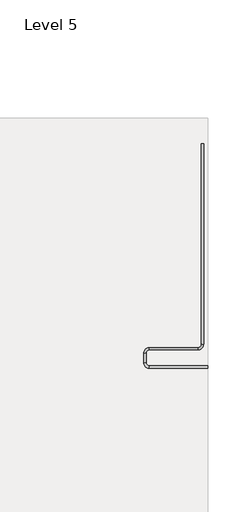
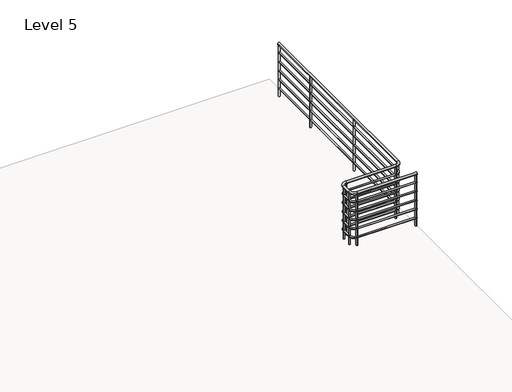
# One storey, part 2 of 3: 1 railing.
"""IFC4 building model written with IfcOpenShell, lengths in millimetres."""

from ifc_helpers import new_model, si_unit, point, frame, frame_2d, origin, place, context, project, spatial, circle_curve, ellipse_curve, trimmed, segment, composite_curve, outline, extrude, element, save
from ifc_brep_helpers import plane_surface, cylinder_surface, revolved_surface, advanced_brep

model = new_model("IFC4")

# Units and contexts
model_context = context("Model", 3, world=origin())
ifc_project = project(units=[si_unit("LENGTHUNIT", "METRE", prefix="MILLI")], contexts=[model_context])

# Site, building, storey
site = spatial("IfcSite", under=ifc_project)
building = spatial("IfcBuilding", under=site)
storey = spatial("IfcBuildingStorey", under=building, Name="Level 5", Elevation=14630.4)

# Railing
placement = place(None, origin())
element("IfcRailing", 1, ObjectType="Handrail - Pipe", at=placement, inside=storey, context=model_context, shape_type="SolidModel", body=[
    advanced_brep(
    [(18023.4049721, 512.0273319, 15525.75), (18023.4049721, 473.9273319, 15525.75), (17058.2049721, 512.0273319, 15525.75), (17058.2049721, 473.9273319, 15525.75), (16962.9549721, 569.1773319, 15525.75), (17001.0549721, 569.1773319, 15525.75), (17001.0549721, 721.5773319, 15525.75), (16962.9549721, 721.5773319, 15525.75), (17058.2049721, 816.8273319, 15525.75), (17058.2049721, 778.7273319, 15525.75), (17861.7339721, 778.7273319, 15525.75), (17861.7339721, 816.8273319, 15525.75), (17956.9839721, 4202.9648319, 15525.75), (17918.8839721, 4202.9648319, 15525.75), (17918.8839721, 873.9773319, 15525.75), (17956.9839721, 873.9773319, 15525.75)],
    [
        (0, 1, circle_curve(frame((18023.4049721, 492.9773319, 15525.75), z_axis=(1.0, 0.0, 0.0), x_axis=(0.0, -1.0, 0.0)), 19.05)),
        (1, 0, circle_curve(frame((18023.4049721, 492.9773319, 15525.75), z_axis=(1.0, 0.0, 0.0), x_axis=(0.0, -1.0, 0.0)), 19.05)),
        (0, 2),
        (2, 3, circle_curve(frame((17058.2049721, 492.9773319, 15525.75), z_axis=(1.0, 0.0, 0.0), x_axis=(0.0, -1.0, 0.0)), 19.05)),
        (3, 1),
        (3, 2, circle_curve(frame((17058.2049721, 492.9773319, 15525.75), z_axis=(1.0, 0.0, 0.0), x_axis=(0.0, -1.0, 0.0)), 19.05)),
        (4, 5, circle_curve(frame((16982.0049721, 569.1773319, 15525.75), z_axis=(0.0, 1.0, 0.0), x_axis=(-1.0, 0.0, 0.0)), 19.05)),
        (5, 6),
        (6, 7, circle_curve(frame((16982.0049721, 721.5773319, 15525.75), z_axis=(0.0, -1.0, 0.0), x_axis=(-1.0, 0.0, 0.0)), 19.05)),
        (7, 4),
        (5, 4, circle_curve(frame((16982.0049721, 569.1773319, 15525.75), z_axis=(0.0, 1.0, 0.0), x_axis=(-1.0, 0.0, 0.0)), 19.05)),
        (7, 6, circle_curve(frame((16982.0049721, 721.5773319, 15525.75), z_axis=(0.0, -1.0, 0.0), x_axis=(-1.0, 0.0, 0.0)), 19.05)),
        (8, 9, circle_curve(frame((17058.2049721, 797.7773319, 15525.75), z_axis=(1.0, 0.0, 0.0), x_axis=(0.0, 1.0, 0.0)), 19.05)),
        (9, 10),
        (10, 11, circle_curve(frame((17861.7339721, 797.7773319, 15525.75), z_axis=(-1.0, 0.0, 0.0), x_axis=(0.0, 1.0, 0.0)), 19.05)),
        (11, 8),
        (9, 8, circle_curve(frame((17058.2049721, 797.7773319, 15525.75), z_axis=(1.0, 0.0, 0.0), x_axis=(0.0, 1.0, 0.0)), 19.05)),
        (11, 10, circle_curve(frame((17861.7339721, 797.7773319, 15525.75), z_axis=(-1.0, 0.0, 0.0), x_axis=(0.0, 1.0, 0.0)), 19.05)),
        (12, 13, circle_curve(frame((17937.9339721, 4202.9648319, 15525.75), z_axis=(0.0, 1.0, 0.0), x_axis=(-1.0, 0.0, 0.0)), 19.05)),
        (13, 12, circle_curve(frame((17937.9339721, 4202.9648319, 15525.75), z_axis=(0.0, 1.0, 0.0), x_axis=(-1.0, 0.0, 0.0)), 19.05)),
        (14, 15, circle_curve(frame((17937.9339721, 873.9773319, 15525.75), z_axis=(0.0, 1.0, 0.0), x_axis=(-1.0, 0.0, 0.0)), 19.05)),
        (15, 12),
        (13, 14),
        (15, 14, circle_curve(frame((17937.9339721, 873.9773319, 15525.75), z_axis=(0.0, 1.0, 0.0), x_axis=(-1.0, 0.0, 0.0)), 19.05)),
        (4, 3, circle_curve(frame((17058.2049721, 569.1773319, 15525.75), z_axis=(0.0, 0.0, 1.0), x_axis=(0.0, -1.0, 0.0)), 95.25)),
        (2, 5, circle_curve(frame((17058.2049721, 569.1773319, 15525.75), z_axis=(0.0, 0.0, -1.0), x_axis=(0.0, -1.0, 0.0)), 57.15)),
        (8, 7, circle_curve(frame((17058.2049721, 721.5773319, 15525.75), z_axis=(0.0, 0.0, 1.0), x_axis=(-1.0, 0.0, 0.0)), 95.25)),
        (6, 9, circle_curve(frame((17058.2049721, 721.5773319, 15525.75), z_axis=(0.0, 0.0, -1.0), x_axis=(-1.0, 0.0, 0.0)), 57.15)),
        (14, 11, circle_curve(frame((17861.7339721, 873.9773319, 15525.75), z_axis=(0.0, 0.0, -1.0), x_axis=(0.0, -1.0, 0.0)), 57.15)),
        (10, 15, circle_curve(frame((17861.7339721, 873.9773319, 15525.75), z_axis=(0.0, 0.0, 1.0), x_axis=(0.0, -1.0, 0.0)), 95.25)),
    ],
    [
        plane_surface(frame((18023.4049721, 492.9773319, 15544.8), z_axis=(1.0, 0.0, 0.0), x_axis=(0.0, -1.0, 0.0))),
        cylinder_surface(frame((18023.4049721, 492.9773319, 15525.75), z_axis=(1.0, 0.0, 0.0), x_axis=(0.0, -1.0, 0.0)), 19.05),
        cylinder_surface(frame((16982.0049721, 569.1773319, 15525.75), z_axis=(0.0, -1.0, 0.0), x_axis=(-1.0, 0.0, 0.0)), 19.05),
        cylinder_surface(frame((17058.2049721, 797.7773319, 15525.75), z_axis=(-1.0, 0.0, 0.0), x_axis=(0.0, 1.0, 0.0)), 19.05),
        plane_surface(frame((17937.9339721, 4202.9648319, 15544.8), z_axis=(0.0, 1.0, 0.0), x_axis=(0.0, 0.0, 1.0))),
        cylinder_surface(frame((17937.9339721, 873.9773319, 15525.75), z_axis=(0.0, -1.0, 0.0), x_axis=(-1.0, 0.0, 0.0)), 19.05),
        revolved_surface(trimmed(ellipse_curve(frame((17058.2049721, 492.9773319, 15525.75), z_axis=(1.0, 0.0, 0.0), x_axis=(0.0, -1.0, 0.0)), 19.05, 19.05), [point((17058.2049721, 512.0273319, 15525.75))], [point((17058.2049721, 473.9273319, 15525.75))], True, "CARTESIAN"), (17058.2049721, 569.1773319, 15544.8), (0.0, 0.0, -1.0)),
        revolved_surface(trimmed(ellipse_curve(frame((17058.2049721, 492.9773319, 15525.75), z_axis=(1.0, 0.0, 0.0), x_axis=(0.0, -1.0, 0.0)), 19.05, 19.05), [point((17058.2049721, 473.9273319, 15525.75))], [point((17058.2049721, 512.0273319, 15525.75))], True, "CARTESIAN"), (17058.2049721, 569.1773319, 15544.8), (0.0, 0.0, -1.0)),
        revolved_surface(trimmed(ellipse_curve(frame((16982.0049721, 721.5773319, 15525.75), z_axis=(0.0, -1.0, 0.0), x_axis=(-1.0, 0.0, 0.0)), 19.05, 19.05), [point((17001.0549721, 721.5773319, 15525.75))], [point((16962.9549721, 721.5773319, 15525.75))], True, "CARTESIAN"), (17058.2049721, 721.5773319, 15544.8), (0.0, 0.0, -1.0)),
        revolved_surface(trimmed(ellipse_curve(frame((16982.0049721, 721.5773319, 15525.75), z_axis=(0.0, -1.0, 0.0), x_axis=(-1.0, 0.0, 0.0)), 19.05, 19.05), [point((16962.9549721, 721.5773319, 15525.75))], [point((17001.0549721, 721.5773319, 15525.75))], True, "CARTESIAN"), (17058.2049721, 721.5773319, 15544.8), (0.0, 0.0, -1.0)),
        revolved_surface(trimmed(ellipse_curve(frame((17861.7339721, 797.7773319, 15525.75), z_axis=(-1.0, 0.0, 0.0), x_axis=(0.0, 1.0, 0.0)), 19.05, 19.05), [point((17861.7339721, 778.7273319, 15525.75))], [point((17861.7339721, 816.8273319, 15525.75))], True, "CARTESIAN"), (17861.7339721, 873.9773319, 15544.8), (0.0, 0.0, 1.0)),
        revolved_surface(trimmed(ellipse_curve(frame((17861.7339721, 797.7773319, 15525.75), z_axis=(-1.0, 0.0, 0.0), x_axis=(0.0, 1.0, 0.0)), 19.05, 19.05), [point((17861.7339721, 816.8273319, 15525.75))], [point((17861.7339721, 778.7273319, 15525.75))], True, "CARTESIAN"), (17861.7339721, 873.9773319, 15544.8), (0.0, 0.0, 1.0)),
    ],
    [
        (0, [[1, 2]]),
        (1, [[-1, 3, 4, 5]]),
        (1, [[-2, -5, 6, -3]]),
        (2, [[7, 8, 9, 10]]),
        (2, [[11, -10, 12, -8]]),
        (3, [[13, 14, 15, 16]]),
        (3, [[17, -16, 18, -14]]),
        (4, [[19, 20]]),
        (5, [[21, 22, -20, 23]]),
        (5, [[24, -23, -19, -22]]),
        (6, [[25, -4, 26, -7]]),
        (7, [[-26, -6, -25, -11]]),
        (8, [[27, -9, 28, -13]]),
        (9, [[-28, -12, -27, -17]]),
        (10, [[29, -15, 30, -21]]),
        (11, [[-30, -18, -29, -24]]),
    ],
),
    advanced_brep(
    [(18023.4049721, 505.6773319, 15379.7), (18023.4049721, 480.2773319, 15379.7), (17058.2049721, 480.2773319, 15379.7), (17058.2049721, 505.6773319, 15379.7), (16994.7049721, 569.1773319, 15379.7), (16969.3049721, 569.1773319, 15379.7), (16969.3049721, 721.5773319, 15379.7), (16994.7049721, 721.5773319, 15379.7), (17058.2049721, 785.0773319, 15379.7), (17058.2049721, 810.4773319, 15379.7), (17861.7339721, 810.4773319, 15379.7), (17861.7339721, 785.0773319, 15379.7), (17950.6339721, 4202.9648319, 15379.7), (17925.2339721, 4202.9648319, 15379.7), (17950.6339721, 873.9773319, 15379.7), (17925.2339721, 873.9773319, 15379.7)],
    [
        (0, 1, circle_curve(frame((18023.4049721, 492.9773319, 15379.7), z_axis=(1.0, 0.0, 0.0), x_axis=(0.0, -1.0, 0.0)), 12.7)),
        (1, 0, circle_curve(frame((18023.4049721, 492.9773319, 15379.7), z_axis=(1.0, 0.0, 0.0), x_axis=(0.0, -1.0, 0.0)), 12.7)),
        (1, 2),
        (2, 3, circle_curve(frame((17058.2049721, 492.9773319, 15379.7), z_axis=(1.0, 0.0, 0.0), x_axis=(0.0, -1.0, 0.0)), 12.7)),
        (3, 0),
        (3, 2, circle_curve(frame((17058.2049721, 492.9773319, 15379.7), z_axis=(1.0, 0.0, 0.0), x_axis=(0.0, -1.0, 0.0)), 12.7)),
        (4, 5, circle_curve(frame((16982.0049721, 569.1773319, 15379.7), z_axis=(0.0, 1.0, 0.0), x_axis=(-1.0, 0.0, 0.0)), 12.7)),
        (5, 6),
        (6, 7, circle_curve(frame((16982.0049721, 721.5773319, 15379.7), z_axis=(0.0, -1.0, 0.0), x_axis=(-1.0, 0.0, 0.0)), 12.7)),
        (7, 4),
        (5, 4, circle_curve(frame((16982.0049721, 569.1773319, 15379.7), z_axis=(0.0, 1.0, 0.0), x_axis=(-1.0, 0.0, 0.0)), 12.7)),
        (7, 6, circle_curve(frame((16982.0049721, 721.5773319, 15379.7), z_axis=(0.0, -1.0, 0.0), x_axis=(-1.0, 0.0, 0.0)), 12.7)),
        (8, 9, circle_curve(frame((17058.2049721, 797.7773319, 15379.7), z_axis=(1.0, 0.0, 0.0), x_axis=(0.0, 1.0, 0.0)), 12.7)),
        (9, 10),
        (10, 11, circle_curve(frame((17861.7339721, 797.7773319, 15379.7), z_axis=(-1.0, 0.0, 0.0), x_axis=(0.0, 1.0, 0.0)), 12.7)),
        (11, 8),
        (9, 8, circle_curve(frame((17058.2049721, 797.7773319, 15379.7), z_axis=(1.0, 0.0, 0.0), x_axis=(0.0, 1.0, 0.0)), 12.7)),
        (11, 10, circle_curve(frame((17861.7339721, 797.7773319, 15379.7), z_axis=(-1.0, 0.0, 0.0), x_axis=(0.0, 1.0, 0.0)), 12.7)),
        (12, 13, circle_curve(frame((17937.9339721, 4202.9648319, 15379.7), z_axis=(0.0, 1.0, 0.0), x_axis=(-1.0, 0.0, 0.0)), 12.7)),
        (13, 12, circle_curve(frame((17937.9339721, 4202.9648319, 15379.7), z_axis=(0.0, 1.0, 0.0), x_axis=(-1.0, 0.0, 0.0)), 12.7)),
        (14, 15, circle_curve(frame((17937.9339721, 873.9773319, 15379.7), z_axis=(0.0, 1.0, 0.0), x_axis=(-1.0, 0.0, 0.0)), 12.7)),
        (15, 13),
        (12, 14),
        (15, 14, circle_curve(frame((17937.9339721, 873.9773319, 15379.7), z_axis=(0.0, 1.0, 0.0), x_axis=(-1.0, 0.0, 0.0)), 12.7)),
        (4, 3, circle_curve(frame((17058.2049721, 569.1773319, 15379.7), z_axis=(0.0, 0.0, 1.0), x_axis=(0.0, -1.0, 0.0)), 63.5)),
        (2, 5, circle_curve(frame((17058.2049721, 569.1773319, 15379.7), z_axis=(0.0, 0.0, -1.0), x_axis=(0.0, -1.0, 0.0)), 88.9)),
        (8, 7, circle_curve(frame((17058.2049721, 721.5773319, 15379.7), z_axis=(0.0, 0.0, 1.0), x_axis=(-1.0, 0.0, 0.0)), 63.5)),
        (6, 9, circle_curve(frame((17058.2049721, 721.5773319, 15379.7), z_axis=(0.0, 0.0, -1.0), x_axis=(-1.0, 0.0, 0.0)), 88.9)),
        (14, 11, circle_curve(frame((17861.7339721, 873.9773319, 15379.7), z_axis=(0.0, 0.0, -1.0), x_axis=(0.0, -1.0, 0.0)), 88.9)),
        (10, 15, circle_curve(frame((17861.7339721, 873.9773319, 15379.7), z_axis=(0.0, 0.0, 1.0), x_axis=(0.0, -1.0, 0.0)), 63.5)),
    ],
    [
        plane_surface(frame((18023.4049721, 492.9773319, 15392.4), z_axis=(1.0, 0.0, 0.0), x_axis=(0.0, -1.0, 0.0))),
        cylinder_surface(frame((18023.4049721, 492.9773319, 15379.7), z_axis=(1.0, 0.0, 0.0), x_axis=(0.0, -1.0, 0.0)), 12.7),
        cylinder_surface(frame((16982.0049721, 569.1773319, 15379.7), z_axis=(0.0, -1.0, 0.0), x_axis=(-1.0, 0.0, 0.0)), 12.7),
        cylinder_surface(frame((17058.2049721, 797.7773319, 15379.7), z_axis=(-1.0, 0.0, 0.0), x_axis=(0.0, 1.0, 0.0)), 12.7),
        plane_surface(frame((17937.9339721, 4202.9648319, 15392.4), z_axis=(0.0, 1.0, 0.0), x_axis=(0.0, 0.0, 1.0))),
        cylinder_surface(frame((17937.9339721, 873.9773319, 15379.7), z_axis=(0.0, -1.0, 0.0), x_axis=(-1.0, 0.0, 0.0)), 12.7),
        revolved_surface(trimmed(ellipse_curve(frame((17058.2049721, 492.9773319, 15379.7), z_axis=(1.0, 0.0, 0.0), x_axis=(0.0, -1.0, 0.0)), 12.7, 12.7), [point((17058.2049721, 480.2773319, 15379.7))], [point((17058.2049721, 505.6773319, 15379.7))], True, "CARTESIAN"), (17058.2049721, 569.1773319, 15392.4), (0.0, 0.0, -1.0)),
        revolved_surface(trimmed(ellipse_curve(frame((17058.2049721, 492.9773319, 15379.7), z_axis=(1.0, 0.0, 0.0), x_axis=(0.0, -1.0, 0.0)), 12.7, 12.7), [point((17058.2049721, 505.6773319, 15379.7))], [point((17058.2049721, 480.2773319, 15379.7))], True, "CARTESIAN"), (17058.2049721, 569.1773319, 15392.4), (0.0, 0.0, -1.0)),
        revolved_surface(trimmed(ellipse_curve(frame((16982.0049721, 721.5773319, 15379.7), z_axis=(0.0, -1.0, 0.0), x_axis=(-1.0, 0.0, 0.0)), 12.7, 12.7), [point((16969.3049721, 721.5773319, 15379.7))], [point((16994.7049721, 721.5773319, 15379.7))], True, "CARTESIAN"), (17058.2049721, 721.5773319, 15392.4), (0.0, 0.0, -1.0)),
        revolved_surface(trimmed(ellipse_curve(frame((16982.0049721, 721.5773319, 15379.7), z_axis=(0.0, -1.0, 0.0), x_axis=(-1.0, 0.0, 0.0)), 12.7, 12.7), [point((16994.7049721, 721.5773319, 15379.7))], [point((16969.3049721, 721.5773319, 15379.7))], True, "CARTESIAN"), (17058.2049721, 721.5773319, 15392.4), (0.0, 0.0, -1.0)),
        revolved_surface(trimmed(ellipse_curve(frame((17861.7339721, 797.7773319, 15379.7), z_axis=(-1.0, 0.0, 0.0), x_axis=(0.0, 1.0, 0.0)), 12.7, 12.7), [point((17861.7339721, 810.4773319, 15379.7))], [point((17861.7339721, 785.0773319, 15379.7))], True, "CARTESIAN"), (17861.7339721, 873.9773319, 15392.4), (0.0, 0.0, 1.0)),
        revolved_surface(trimmed(ellipse_curve(frame((17861.7339721, 797.7773319, 15379.7), z_axis=(-1.0, 0.0, 0.0), x_axis=(0.0, 1.0, 0.0)), 12.7, 12.7), [point((17861.7339721, 785.0773319, 15379.7))], [point((17861.7339721, 810.4773319, 15379.7))], True, "CARTESIAN"), (17861.7339721, 873.9773319, 15392.4), (0.0, 0.0, 1.0)),
    ],
    [
        (0, [[1, 2]]),
        (1, [[-2, 3, 4, 5]]),
        (1, [[-1, -5, 6, -3]]),
        (2, [[7, 8, 9, 10]]),
        (2, [[11, -10, 12, -8]]),
        (3, [[13, 14, 15, 16]]),
        (3, [[17, -16, 18, -14]]),
        (4, [[19, 20]]),
        (5, [[21, 22, -19, 23]]),
        (5, [[24, -23, -20, -22]]),
        (6, [[25, -4, 26, -7]]),
        (7, [[-26, -6, -25, -11]]),
        (8, [[27, -9, 28, -13]]),
        (9, [[-28, -12, -27, -17]]),
        (10, [[29, -15, 30, -21]]),
        (11, [[-30, -18, -29, -24]]),
    ],
),
    advanced_brep(
    [(18023.4049721, 505.6773319, 15227.3), (18023.4049721, 480.2773319, 15227.3), (17058.2049721, 480.2773319, 15227.3), (17058.2049721, 505.6773319, 15227.3), (16994.7049721, 569.1773319, 15227.3), (16969.3049721, 569.1773319, 15227.3), (16969.3049721, 721.5773319, 15227.3), (16994.7049721, 721.5773319, 15227.3), (17058.2049721, 785.0773319, 15227.3), (17058.2049721, 810.4773319, 15227.3), (17861.7339721, 810.4773319, 15227.3), (17861.7339721, 785.0773319, 15227.3), (17950.6339721, 4202.9648319, 15227.3), (17925.2339721, 4202.9648319, 15227.3), (17950.6339721, 873.9773319, 15227.3), (17925.2339721, 873.9773319, 15227.3)],
    [
        (0, 1, circle_curve(frame((18023.4049721, 492.9773319, 15227.3), z_axis=(1.0, 0.0, 0.0), x_axis=(0.0, -1.0, 0.0)), 12.7)),
        (1, 0, circle_curve(frame((18023.4049721, 492.9773319, 15227.3), z_axis=(1.0, 0.0, 0.0), x_axis=(0.0, -1.0, 0.0)), 12.7)),
        (1, 2),
        (2, 3, circle_curve(frame((17058.2049721, 492.9773319, 15227.3), z_axis=(1.0, 0.0, 0.0), x_axis=(0.0, -1.0, 0.0)), 12.7)),
        (3, 0),
        (3, 2, circle_curve(frame((17058.2049721, 492.9773319, 15227.3), z_axis=(1.0, 0.0, 0.0), x_axis=(0.0, -1.0, 0.0)), 12.7)),
        (4, 5, circle_curve(frame((16982.0049721, 569.1773319, 15227.3), z_axis=(0.0, 1.0, 0.0), x_axis=(-1.0, 0.0, 0.0)), 12.7)),
        (5, 6),
        (6, 7, circle_curve(frame((16982.0049721, 721.5773319, 15227.3), z_axis=(0.0, -1.0, 0.0), x_axis=(-1.0, 0.0, 0.0)), 12.7)),
        (7, 4),
        (5, 4, circle_curve(frame((16982.0049721, 569.1773319, 15227.3), z_axis=(0.0, 1.0, 0.0), x_axis=(-1.0, 0.0, 0.0)), 12.7)),
        (7, 6, circle_curve(frame((16982.0049721, 721.5773319, 15227.3), z_axis=(0.0, -1.0, 0.0), x_axis=(-1.0, 0.0, 0.0)), 12.7)),
        (8, 9, circle_curve(frame((17058.2049721, 797.7773319, 15227.3), z_axis=(1.0, 0.0, 0.0), x_axis=(0.0, 1.0, 0.0)), 12.7)),
        (9, 10),
        (10, 11, circle_curve(frame((17861.7339721, 797.7773319, 15227.3), z_axis=(-1.0, 0.0, 0.0), x_axis=(0.0, 1.0, 0.0)), 12.7)),
        (11, 8),
        (9, 8, circle_curve(frame((17058.2049721, 797.7773319, 15227.3), z_axis=(1.0, 0.0, 0.0), x_axis=(0.0, 1.0, 0.0)), 12.7)),
        (11, 10, circle_curve(frame((17861.7339721, 797.7773319, 15227.3), z_axis=(-1.0, 0.0, 0.0), x_axis=(0.0, 1.0, 0.0)), 12.7)),
        (12, 13, circle_curve(frame((17937.9339721, 4202.9648319, 15227.3), z_axis=(0.0, 1.0, 0.0), x_axis=(-1.0, 0.0, 0.0)), 12.7)),
        (13, 12, circle_curve(frame((17937.9339721, 4202.9648319, 15227.3), z_axis=(0.0, 1.0, 0.0), x_axis=(-1.0, 0.0, 0.0)), 12.7)),
        (14, 15, circle_curve(frame((17937.9339721, 873.9773319, 15227.3), z_axis=(0.0, 1.0, 0.0), x_axis=(-1.0, 0.0, 0.0)), 12.7)),
        (15, 13),
        (12, 14),
        (15, 14, circle_curve(frame((17937.9339721, 873.9773319, 15227.3), z_axis=(0.0, 1.0, 0.0), x_axis=(-1.0, 0.0, 0.0)), 12.7)),
        (4, 3, circle_curve(frame((17058.2049721, 569.1773319, 15227.3), z_axis=(0.0, 0.0, 1.0), x_axis=(0.0, -1.0, 0.0)), 63.5)),
        (2, 5, circle_curve(frame((17058.2049721, 569.1773319, 15227.3), z_axis=(0.0, 0.0, -1.0), x_axis=(0.0, -1.0, 0.0)), 88.9)),
        (8, 7, circle_curve(frame((17058.2049721, 721.5773319, 15227.3), z_axis=(0.0, 0.0, 1.0), x_axis=(-1.0, 0.0, 0.0)), 63.5)),
        (6, 9, circle_curve(frame((17058.2049721, 721.5773319, 15227.3), z_axis=(0.0, 0.0, -1.0), x_axis=(-1.0, 0.0, 0.0)), 88.9)),
        (14, 11, circle_curve(frame((17861.7339721, 873.9773319, 15227.3), z_axis=(0.0, 0.0, -1.0), x_axis=(0.0, -1.0, 0.0)), 88.9)),
        (10, 15, circle_curve(frame((17861.7339721, 873.9773319, 15227.3), z_axis=(0.0, 0.0, 1.0), x_axis=(0.0, -1.0, 0.0)), 63.5)),
    ],
    [
        plane_surface(frame((18023.4049721, 492.9773319, 15240.0), z_axis=(1.0, 0.0, 0.0), x_axis=(0.0, -1.0, 0.0))),
        cylinder_surface(frame((18023.4049721, 492.9773319, 15227.3), z_axis=(1.0, 0.0, 0.0), x_axis=(0.0, -1.0, 0.0)), 12.7),
        cylinder_surface(frame((16982.0049721, 569.1773319, 15227.3), z_axis=(0.0, -1.0, 0.0), x_axis=(-1.0, 0.0, 0.0)), 12.7),
        cylinder_surface(frame((17058.2049721, 797.7773319, 15227.3), z_axis=(-1.0, 0.0, 0.0), x_axis=(0.0, 1.0, 0.0)), 12.7),
        plane_surface(frame((17937.9339721, 4202.9648319, 15240.0), z_axis=(0.0, 1.0, 0.0), x_axis=(0.0, 0.0, 1.0))),
        cylinder_surface(frame((17937.9339721, 873.9773319, 15227.3), z_axis=(0.0, -1.0, 0.0), x_axis=(-1.0, 0.0, 0.0)), 12.7),
        revolved_surface(trimmed(ellipse_curve(frame((17058.2049721, 492.9773319, 15227.3), z_axis=(1.0, 0.0, 0.0), x_axis=(0.0, -1.0, 0.0)), 12.7, 12.7), [point((17058.2049721, 480.2773319, 15227.3))], [point((17058.2049721, 505.6773319, 15227.3))], True, "CARTESIAN"), (17058.2049721, 569.1773319, 15240.0), (0.0, 0.0, -1.0)),
        revolved_surface(trimmed(ellipse_curve(frame((17058.2049721, 492.9773319, 15227.3), z_axis=(1.0, 0.0, 0.0), x_axis=(0.0, -1.0, 0.0)), 12.7, 12.7), [point((17058.2049721, 505.6773319, 15227.3))], [point((17058.2049721, 480.2773319, 15227.3))], True, "CARTESIAN"), (17058.2049721, 569.1773319, 15240.0), (0.0, 0.0, -1.0)),
        revolved_surface(trimmed(ellipse_curve(frame((16982.0049721, 721.5773319, 15227.3), z_axis=(0.0, -1.0, 0.0), x_axis=(-1.0, 0.0, 0.0)), 12.7, 12.7), [point((16969.3049721, 721.5773319, 15227.3))], [point((16994.7049721, 721.5773319, 15227.3))], True, "CARTESIAN"), (17058.2049721, 721.5773319, 15240.0), (0.0, 0.0, -1.0)),
        revolved_surface(trimmed(ellipse_curve(frame((16982.0049721, 721.5773319, 15227.3), z_axis=(0.0, -1.0, 0.0), x_axis=(-1.0, 0.0, 0.0)), 12.7, 12.7), [point((16994.7049721, 721.5773319, 15227.3))], [point((16969.3049721, 721.5773319, 15227.3))], True, "CARTESIAN"), (17058.2049721, 721.5773319, 15240.0), (0.0, 0.0, -1.0)),
        revolved_surface(trimmed(ellipse_curve(frame((17861.7339721, 797.7773319, 15227.3), z_axis=(-1.0, 0.0, 0.0), x_axis=(0.0, 1.0, 0.0)), 12.7, 12.7), [point((17861.7339721, 810.4773319, 15227.3))], [point((17861.7339721, 785.0773319, 15227.3))], True, "CARTESIAN"), (17861.7339721, 873.9773319, 15240.0), (0.0, 0.0, 1.0)),
        revolved_surface(trimmed(ellipse_curve(frame((17861.7339721, 797.7773319, 15227.3), z_axis=(-1.0, 0.0, 0.0), x_axis=(0.0, 1.0, 0.0)), 12.7, 12.7), [point((17861.7339721, 785.0773319, 15227.3))], [point((17861.7339721, 810.4773319, 15227.3))], True, "CARTESIAN"), (17861.7339721, 873.9773319, 15240.0), (0.0, 0.0, 1.0)),
    ],
    [
        (0, [[1, 2]]),
        (1, [[-2, 3, 4, 5]]),
        (1, [[-1, -5, 6, -3]]),
        (2, [[7, 8, 9, 10]]),
        (2, [[11, -10, 12, -8]]),
        (3, [[13, 14, 15, 16]]),
        (3, [[17, -16, 18, -14]]),
        (4, [[19, 20]]),
        (5, [[21, 22, -19, 23]]),
        (5, [[24, -23, -20, -22]]),
        (6, [[25, -4, 26, -7]]),
        (7, [[-26, -6, -25, -11]]),
        (8, [[27, -9, 28, -13]]),
        (9, [[-28, -12, -27, -17]]),
        (10, [[29, -15, 30, -21]]),
        (11, [[-30, -18, -29, -24]]),
    ],
),
    advanced_brep(
    [(18023.4049721, 505.6773319, 15074.9), (18023.4049721, 480.2773319, 15074.9), (17058.2049721, 480.2773319, 15074.9), (17058.2049721, 505.6773319, 15074.9), (16994.7049721, 569.1773319, 15074.9), (16969.3049721, 569.1773319, 15074.9), (16969.3049721, 721.5773319, 15074.9), (16994.7049721, 721.5773319, 15074.9), (17058.2049721, 785.0773319, 15074.9), (17058.2049721, 810.4773319, 15074.9), (17861.7339721, 810.4773319, 15074.9), (17861.7339721, 785.0773319, 15074.9), (17950.6339721, 4202.9648319, 15074.9), (17925.2339721, 4202.9648319, 15074.9), (17950.6339721, 873.9773319, 15074.9), (17925.2339721, 873.9773319, 15074.9)],
    [
        (0, 1, circle_curve(frame((18023.4049721, 492.9773319, 15074.9), z_axis=(1.0, 0.0, 0.0), x_axis=(0.0, -1.0, 0.0)), 12.7)),
        (1, 0, circle_curve(frame((18023.4049721, 492.9773319, 15074.9), z_axis=(1.0, 0.0, 0.0), x_axis=(0.0, -1.0, 0.0)), 12.7)),
        (1, 2),
        (2, 3, circle_curve(frame((17058.2049721, 492.9773319, 15074.9), z_axis=(1.0, 0.0, 0.0), x_axis=(0.0, -1.0, 0.0)), 12.7)),
        (3, 0),
        (3, 2, circle_curve(frame((17058.2049721, 492.9773319, 15074.9), z_axis=(1.0, 0.0, 0.0), x_axis=(0.0, -1.0, 0.0)), 12.7)),
        (4, 5, circle_curve(frame((16982.0049721, 569.1773319, 15074.9), z_axis=(0.0, 1.0, 0.0), x_axis=(-1.0, 0.0, 0.0)), 12.7)),
        (5, 6),
        (6, 7, circle_curve(frame((16982.0049721, 721.5773319, 15074.9), z_axis=(0.0, -1.0, 0.0), x_axis=(-1.0, 0.0, 0.0)), 12.7)),
        (7, 4),
        (5, 4, circle_curve(frame((16982.0049721, 569.1773319, 15074.9), z_axis=(0.0, 1.0, 0.0), x_axis=(-1.0, 0.0, 0.0)), 12.7)),
        (7, 6, circle_curve(frame((16982.0049721, 721.5773319, 15074.9), z_axis=(0.0, -1.0, 0.0), x_axis=(-1.0, 0.0, 0.0)), 12.7)),
        (8, 9, circle_curve(frame((17058.2049721, 797.7773319, 15074.9), z_axis=(1.0, 0.0, 0.0), x_axis=(0.0, 1.0, 0.0)), 12.7)),
        (9, 10),
        (10, 11, circle_curve(frame((17861.7339721, 797.7773319, 15074.9), z_axis=(-1.0, 0.0, 0.0), x_axis=(0.0, 1.0, 0.0)), 12.7)),
        (11, 8),
        (9, 8, circle_curve(frame((17058.2049721, 797.7773319, 15074.9), z_axis=(1.0, 0.0, 0.0), x_axis=(0.0, 1.0, 0.0)), 12.7)),
        (11, 10, circle_curve(frame((17861.7339721, 797.7773319, 15074.9), z_axis=(-1.0, 0.0, 0.0), x_axis=(0.0, 1.0, 0.0)), 12.7)),
        (12, 13, circle_curve(frame((17937.9339721, 4202.9648319, 15074.9), z_axis=(0.0, 1.0, 0.0), x_axis=(-1.0, 0.0, 0.0)), 12.7)),
        (13, 12, circle_curve(frame((17937.9339721, 4202.9648319, 15074.9), z_axis=(0.0, 1.0, 0.0), x_axis=(-1.0, 0.0, 0.0)), 12.7)),
        (14, 15, circle_curve(frame((17937.9339721, 873.9773319, 15074.9), z_axis=(0.0, 1.0, 0.0), x_axis=(-1.0, 0.0, 0.0)), 12.7)),
        (15, 13),
        (12, 14),
        (15, 14, circle_curve(frame((17937.9339721, 873.9773319, 15074.9), z_axis=(0.0, 1.0, 0.0), x_axis=(-1.0, 0.0, 0.0)), 12.7)),
        (4, 3, circle_curve(frame((17058.2049721, 569.1773319, 15074.9), z_axis=(0.0, 0.0, 1.0), x_axis=(0.0, -1.0, 0.0)), 63.5)),
        (2, 5, circle_curve(frame((17058.2049721, 569.1773319, 15074.9), z_axis=(0.0, 0.0, -1.0), x_axis=(0.0, -1.0, 0.0)), 88.9)),
        (8, 7, circle_curve(frame((17058.2049721, 721.5773319, 15074.9), z_axis=(0.0, 0.0, 1.0), x_axis=(-1.0, 0.0, 0.0)), 63.5)),
        (6, 9, circle_curve(frame((17058.2049721, 721.5773319, 15074.9), z_axis=(0.0, 0.0, -1.0), x_axis=(-1.0, 0.0, 0.0)), 88.9)),
        (14, 11, circle_curve(frame((17861.7339721, 873.9773319, 15074.9), z_axis=(0.0, 0.0, -1.0), x_axis=(0.0, -1.0, 0.0)), 88.9)),
        (10, 15, circle_curve(frame((17861.7339721, 873.9773319, 15074.9), z_axis=(0.0, 0.0, 1.0), x_axis=(0.0, -1.0, 0.0)), 63.5)),
    ],
    [
        plane_surface(frame((18023.4049721, 492.9773319, 15087.6), z_axis=(1.0, 0.0, 0.0), x_axis=(0.0, -1.0, 0.0))),
        cylinder_surface(frame((18023.4049721, 492.9773319, 15074.9), z_axis=(1.0, 0.0, 0.0), x_axis=(0.0, -1.0, 0.0)), 12.7),
        cylinder_surface(frame((16982.0049721, 569.1773319, 15074.9), z_axis=(0.0, -1.0, 0.0), x_axis=(-1.0, 0.0, 0.0)), 12.7),
        cylinder_surface(frame((17058.2049721, 797.7773319, 15074.9), z_axis=(-1.0, 0.0, 0.0), x_axis=(0.0, 1.0, 0.0)), 12.7),
        plane_surface(frame((17937.9339721, 4202.9648319, 15087.6), z_axis=(0.0, 1.0, 0.0), x_axis=(0.0, 0.0, 1.0))),
        cylinder_surface(frame((17937.9339721, 873.9773319, 15074.9), z_axis=(0.0, -1.0, 0.0), x_axis=(-1.0, 0.0, 0.0)), 12.7),
        revolved_surface(trimmed(ellipse_curve(frame((17058.2049721, 492.9773319, 15074.9), z_axis=(1.0, 0.0, 0.0), x_axis=(0.0, -1.0, 0.0)), 12.7, 12.7), [point((17058.2049721, 480.2773319, 15074.9))], [point((17058.2049721, 505.6773319, 15074.9))], True, "CARTESIAN"), (17058.2049721, 569.1773319, 15087.6), (0.0, 0.0, -1.0)),
        revolved_surface(trimmed(ellipse_curve(frame((17058.2049721, 492.9773319, 15074.9), z_axis=(1.0, 0.0, 0.0), x_axis=(0.0, -1.0, 0.0)), 12.7, 12.7), [point((17058.2049721, 505.6773319, 15074.9))], [point((17058.2049721, 480.2773319, 15074.9))], True, "CARTESIAN"), (17058.2049721, 569.1773319, 15087.6), (0.0, 0.0, -1.0)),
        revolved_surface(trimmed(ellipse_curve(frame((16982.0049721, 721.5773319, 15074.9), z_axis=(0.0, -1.0, 0.0), x_axis=(-1.0, 0.0, 0.0)), 12.7, 12.7), [point((16969.3049721, 721.5773319, 15074.9))], [point((16994.7049721, 721.5773319, 15074.9))], True, "CARTESIAN"), (17058.2049721, 721.5773319, 15087.6), (0.0, 0.0, -1.0)),
        revolved_surface(trimmed(ellipse_curve(frame((16982.0049721, 721.5773319, 15074.9), z_axis=(0.0, -1.0, 0.0), x_axis=(-1.0, 0.0, 0.0)), 12.7, 12.7), [point((16994.7049721, 721.5773319, 15074.9))], [point((16969.3049721, 721.5773319, 15074.9))], True, "CARTESIAN"), (17058.2049721, 721.5773319, 15087.6), (0.0, 0.0, -1.0)),
        revolved_surface(trimmed(ellipse_curve(frame((17861.7339721, 797.7773319, 15074.9), z_axis=(-1.0, 0.0, 0.0), x_axis=(0.0, 1.0, 0.0)), 12.7, 12.7), [point((17861.7339721, 810.4773319, 15074.9))], [point((17861.7339721, 785.0773319, 15074.9))], True, "CARTESIAN"), (17861.7339721, 873.9773319, 15087.6), (0.0, 0.0, 1.0)),
        revolved_surface(trimmed(ellipse_curve(frame((17861.7339721, 797.7773319, 15074.9), z_axis=(-1.0, 0.0, 0.0), x_axis=(0.0, 1.0, 0.0)), 12.7, 12.7), [point((17861.7339721, 785.0773319, 15074.9))], [point((17861.7339721, 810.4773319, 15074.9))], True, "CARTESIAN"), (17861.7339721, 873.9773319, 15087.6), (0.0, 0.0, 1.0)),
    ],
    [
        (0, [[1, 2]]),
        (1, [[-2, 3, 4, 5]]),
        (1, [[-1, -5, 6, -3]]),
        (2, [[7, 8, 9, 10]]),
        (2, [[11, -10, 12, -8]]),
        (3, [[13, 14, 15, 16]]),
        (3, [[17, -16, 18, -14]]),
        (4, [[19, 20]]),
        (5, [[21, 22, -19, 23]]),
        (5, [[24, -23, -20, -22]]),
        (6, [[25, -4, 26, -7]]),
        (7, [[-26, -6, -25, -11]]),
        (8, [[27, -9, 28, -13]]),
        (9, [[-28, -12, -27, -17]]),
        (10, [[29, -15, 30, -21]]),
        (11, [[-30, -18, -29, -24]]),
    ],
),
    advanced_brep(
    [(18023.4049721, 505.6773319, 14922.5), (18023.4049721, 480.2773319, 14922.5), (17058.2049721, 480.2773319, 14922.5), (17058.2049721, 505.6773319, 14922.5), (16994.7049721, 569.1773319, 14922.5), (16969.3049721, 569.1773319, 14922.5), (16969.3049721, 721.5773319, 14922.5), (16994.7049721, 721.5773319, 14922.5), (17058.2049721, 785.0773319, 14922.5), (17058.2049721, 810.4773319, 14922.5), (17861.7339721, 810.4773319, 14922.5), (17861.7339721, 785.0773319, 14922.5), (17950.6339721, 4202.9648319, 14922.5), (17925.2339721, 4202.9648319, 14922.5), (17950.6339721, 873.9773319, 14922.5), (17925.2339721, 873.9773319, 14922.5)],
    [
        (0, 1, circle_curve(frame((18023.4049721, 492.9773319, 14922.5), z_axis=(1.0, 0.0, 0.0), x_axis=(0.0, -1.0, 0.0)), 12.7)),
        (1, 0, circle_curve(frame((18023.4049721, 492.9773319, 14922.5), z_axis=(1.0, 0.0, 0.0), x_axis=(0.0, -1.0, 0.0)), 12.7)),
        (1, 2),
        (2, 3, circle_curve(frame((17058.2049721, 492.9773319, 14922.5), z_axis=(1.0, 0.0, 0.0), x_axis=(0.0, -1.0, 0.0)), 12.7)),
        (3, 0),
        (3, 2, circle_curve(frame((17058.2049721, 492.9773319, 14922.5), z_axis=(1.0, 0.0, 0.0), x_axis=(0.0, -1.0, 0.0)), 12.7)),
        (4, 5, circle_curve(frame((16982.0049721, 569.1773319, 14922.5), z_axis=(0.0, 1.0, 0.0), x_axis=(-1.0, 0.0, 0.0)), 12.7)),
        (5, 6),
        (6, 7, circle_curve(frame((16982.0049721, 721.5773319, 14922.5), z_axis=(0.0, -1.0, 0.0), x_axis=(-1.0, 0.0, 0.0)), 12.7)),
        (7, 4),
        (5, 4, circle_curve(frame((16982.0049721, 569.1773319, 14922.5), z_axis=(0.0, 1.0, 0.0), x_axis=(-1.0, 0.0, 0.0)), 12.7)),
        (7, 6, circle_curve(frame((16982.0049721, 721.5773319, 14922.5), z_axis=(0.0, -1.0, 0.0), x_axis=(-1.0, 0.0, 0.0)), 12.7)),
        (8, 9, circle_curve(frame((17058.2049721, 797.7773319, 14922.5), z_axis=(1.0, 0.0, 0.0), x_axis=(0.0, 1.0, 0.0)), 12.7)),
        (9, 10),
        (10, 11, circle_curve(frame((17861.7339721, 797.7773319, 14922.5), z_axis=(-1.0, 0.0, 0.0), x_axis=(0.0, 1.0, 0.0)), 12.7)),
        (11, 8),
        (9, 8, circle_curve(frame((17058.2049721, 797.7773319, 14922.5), z_axis=(1.0, 0.0, 0.0), x_axis=(0.0, 1.0, 0.0)), 12.7)),
        (11, 10, circle_curve(frame((17861.7339721, 797.7773319, 14922.5), z_axis=(-1.0, 0.0, 0.0), x_axis=(0.0, 1.0, 0.0)), 12.7)),
        (12, 13, circle_curve(frame((17937.9339721, 4202.9648319, 14922.5), z_axis=(0.0, 1.0, 0.0), x_axis=(-1.0, 0.0, 0.0)), 12.7)),
        (13, 12, circle_curve(frame((17937.9339721, 4202.9648319, 14922.5), z_axis=(0.0, 1.0, 0.0), x_axis=(-1.0, 0.0, 0.0)), 12.7)),
        (14, 15, circle_curve(frame((17937.9339721, 873.9773319, 14922.5), z_axis=(0.0, 1.0, 0.0), x_axis=(-1.0, 0.0, 0.0)), 12.7)),
        (15, 13),
        (12, 14),
        (15, 14, circle_curve(frame((17937.9339721, 873.9773319, 14922.5), z_axis=(0.0, 1.0, 0.0), x_axis=(-1.0, 0.0, 0.0)), 12.7)),
        (4, 3, circle_curve(frame((17058.2049721, 569.1773319, 14922.5), z_axis=(0.0, 0.0, 1.0), x_axis=(0.0, -1.0, 0.0)), 63.5)),
        (2, 5, circle_curve(frame((17058.2049721, 569.1773319, 14922.5), z_axis=(0.0, 0.0, -1.0), x_axis=(0.0, -1.0, 0.0)), 88.9)),
        (8, 7, circle_curve(frame((17058.2049721, 721.5773319, 14922.5), z_axis=(0.0, 0.0, 1.0), x_axis=(-1.0, 0.0, 0.0)), 63.5)),
        (6, 9, circle_curve(frame((17058.2049721, 721.5773319, 14922.5), z_axis=(0.0, 0.0, -1.0), x_axis=(-1.0, 0.0, 0.0)), 88.9)),
        (14, 11, circle_curve(frame((17861.7339721, 873.9773319, 14922.5), z_axis=(0.0, 0.0, -1.0), x_axis=(0.0, -1.0, 0.0)), 88.9)),
        (10, 15, circle_curve(frame((17861.7339721, 873.9773319, 14922.5), z_axis=(0.0, 0.0, 1.0), x_axis=(0.0, -1.0, 0.0)), 63.5)),
    ],
    [
        plane_surface(frame((18023.4049721, 492.9773319, 14935.2), z_axis=(1.0, 0.0, 0.0), x_axis=(0.0, -1.0, 0.0))),
        cylinder_surface(frame((18023.4049721, 492.9773319, 14922.5), z_axis=(1.0, 0.0, 0.0), x_axis=(0.0, -1.0, 0.0)), 12.7),
        cylinder_surface(frame((16982.0049721, 569.1773319, 14922.5), z_axis=(0.0, -1.0, 0.0), x_axis=(-1.0, 0.0, 0.0)), 12.7),
        cylinder_surface(frame((17058.2049721, 797.7773319, 14922.5), z_axis=(-1.0, 0.0, 0.0), x_axis=(0.0, 1.0, 0.0)), 12.7),
        plane_surface(frame((17937.9339721, 4202.9648319, 14935.2), z_axis=(0.0, 1.0, 0.0), x_axis=(0.0, 0.0, 1.0))),
        cylinder_surface(frame((17937.9339721, 873.9773319, 14922.5), z_axis=(0.0, -1.0, 0.0), x_axis=(-1.0, 0.0, 0.0)), 12.7),
        revolved_surface(trimmed(ellipse_curve(frame((17058.2049721, 492.9773319, 14922.5), z_axis=(1.0, 0.0, 0.0), x_axis=(0.0, -1.0, 0.0)), 12.7, 12.7), [point((17058.2049721, 480.2773319, 14922.5))], [point((17058.2049721, 505.6773319, 14922.5))], True, "CARTESIAN"), (17058.2049721, 569.1773319, 14935.2), (0.0, 0.0, -1.0)),
        revolved_surface(trimmed(ellipse_curve(frame((17058.2049721, 492.9773319, 14922.5), z_axis=(1.0, 0.0, 0.0), x_axis=(0.0, -1.0, 0.0)), 12.7, 12.7), [point((17058.2049721, 505.6773319, 14922.5))], [point((17058.2049721, 480.2773319, 14922.5))], True, "CARTESIAN"), (17058.2049721, 569.1773319, 14935.2), (0.0, 0.0, -1.0)),
        revolved_surface(trimmed(ellipse_curve(frame((16982.0049721, 721.5773319, 14922.5), z_axis=(0.0, -1.0, 0.0), x_axis=(-1.0, 0.0, 0.0)), 12.7, 12.7), [point((16969.3049721, 721.5773319, 14922.5))], [point((16994.7049721, 721.5773319, 14922.5))], True, "CARTESIAN"), (17058.2049721, 721.5773319, 14935.2), (0.0, 0.0, -1.0)),
        revolved_surface(trimmed(ellipse_curve(frame((16982.0049721, 721.5773319, 14922.5), z_axis=(0.0, -1.0, 0.0), x_axis=(-1.0, 0.0, 0.0)), 12.7, 12.7), [point((16994.7049721, 721.5773319, 14922.5))], [point((16969.3049721, 721.5773319, 14922.5))], True, "CARTESIAN"), (17058.2049721, 721.5773319, 14935.2), (0.0, 0.0, -1.0)),
        revolved_surface(trimmed(ellipse_curve(frame((17861.7339721, 797.7773319, 14922.5), z_axis=(-1.0, 0.0, 0.0), x_axis=(0.0, 1.0, 0.0)), 12.7, 12.7), [point((17861.7339721, 810.4773319, 14922.5))], [point((17861.7339721, 785.0773319, 14922.5))], True, "CARTESIAN"), (17861.7339721, 873.9773319, 14935.2), (0.0, 0.0, 1.0)),
        revolved_surface(trimmed(ellipse_curve(frame((17861.7339721, 797.7773319, 14922.5), z_axis=(-1.0, 0.0, 0.0), x_axis=(0.0, 1.0, 0.0)), 12.7, 12.7), [point((17861.7339721, 785.0773319, 14922.5))], [point((17861.7339721, 810.4773319, 14922.5))], True, "CARTESIAN"), (17861.7339721, 873.9773319, 14935.2), (0.0, 0.0, 1.0)),
    ],
    [
        (0, [[1, 2]]),
        (1, [[-2, 3, 4, 5]]),
        (1, [[-1, -5, 6, -3]]),
        (2, [[7, 8, 9, 10]]),
        (2, [[11, -10, 12, -8]]),
        (3, [[13, 14, 15, 16]]),
        (3, [[17, -16, 18, -14]]),
        (4, [[19, 20]]),
        (5, [[21, 22, -19, 23]]),
        (5, [[24, -23, -20, -22]]),
        (6, [[25, -4, 26, -7]]),
        (7, [[-26, -6, -25, -11]]),
        (8, [[27, -9, 28, -13]]),
        (9, [[-28, -12, -27, -17]]),
        (10, [[29, -15, 30, -21]]),
        (11, [[-30, -18, -29, -24]]),
    ],
),
    advanced_brep(
    [(18023.4049721, 505.6773319, 14770.1), (18023.4049721, 480.2773319, 14770.1), (17058.2049721, 480.2773319, 14770.1), (17058.2049721, 505.6773319, 14770.1), (16994.7049721, 569.1773319, 14770.1), (16969.3049721, 569.1773319, 14770.1), (16969.3049721, 721.5773319, 14770.1), (16994.7049721, 721.5773319, 14770.1), (17058.2049721, 785.0773319, 14770.1), (17058.2049721, 810.4773319, 14770.1), (17861.7339721, 810.4773319, 14770.1), (17861.7339721, 785.0773319, 14770.1), (17950.6339721, 4202.9648319, 14770.1), (17925.2339721, 4202.9648319, 14770.1), (17950.6339721, 873.9773319, 14770.1), (17925.2339721, 873.9773319, 14770.1)],
    [
        (0, 1, circle_curve(frame((18023.4049721, 492.9773319, 14770.1), z_axis=(1.0, 0.0, 0.0), x_axis=(0.0, -1.0, 0.0)), 12.7)),
        (1, 0, circle_curve(frame((18023.4049721, 492.9773319, 14770.1), z_axis=(1.0, 0.0, 0.0), x_axis=(0.0, -1.0, 0.0)), 12.7)),
        (1, 2),
        (2, 3, circle_curve(frame((17058.2049721, 492.9773319, 14770.1), z_axis=(1.0, 0.0, 0.0), x_axis=(0.0, -1.0, 0.0)), 12.7)),
        (3, 0),
        (3, 2, circle_curve(frame((17058.2049721, 492.9773319, 14770.1), z_axis=(1.0, 0.0, 0.0), x_axis=(0.0, -1.0, 0.0)), 12.7)),
        (4, 5, circle_curve(frame((16982.0049721, 569.1773319, 14770.1), z_axis=(0.0, 1.0, 0.0), x_axis=(-1.0, 0.0, 0.0)), 12.7)),
        (5, 6),
        (6, 7, circle_curve(frame((16982.0049721, 721.5773319, 14770.1), z_axis=(0.0, -1.0, 0.0), x_axis=(-1.0, 0.0, 0.0)), 12.7)),
        (7, 4),
        (5, 4, circle_curve(frame((16982.0049721, 569.1773319, 14770.1), z_axis=(0.0, 1.0, 0.0), x_axis=(-1.0, 0.0, 0.0)), 12.7)),
        (7, 6, circle_curve(frame((16982.0049721, 721.5773319, 14770.1), z_axis=(0.0, -1.0, 0.0), x_axis=(-1.0, 0.0, 0.0)), 12.7)),
        (8, 9, circle_curve(frame((17058.2049721, 797.7773319, 14770.1), z_axis=(1.0, 0.0, 0.0), x_axis=(0.0, 1.0, 0.0)), 12.7)),
        (9, 10),
        (10, 11, circle_curve(frame((17861.7339721, 797.7773319, 14770.1), z_axis=(-1.0, 0.0, 0.0), x_axis=(0.0, 1.0, 0.0)), 12.7)),
        (11, 8),
        (9, 8, circle_curve(frame((17058.2049721, 797.7773319, 14770.1), z_axis=(1.0, 0.0, 0.0), x_axis=(0.0, 1.0, 0.0)), 12.7)),
        (11, 10, circle_curve(frame((17861.7339721, 797.7773319, 14770.1), z_axis=(-1.0, 0.0, 0.0), x_axis=(0.0, 1.0, 0.0)), 12.7)),
        (12, 13, circle_curve(frame((17937.9339721, 4202.9648319, 14770.1), z_axis=(0.0, 1.0, 0.0), x_axis=(-1.0, 0.0, 0.0)), 12.7)),
        (13, 12, circle_curve(frame((17937.9339721, 4202.9648319, 14770.1), z_axis=(0.0, 1.0, 0.0), x_axis=(-1.0, 0.0, 0.0)), 12.7)),
        (14, 15, circle_curve(frame((17937.9339721, 873.9773319, 14770.1), z_axis=(0.0, 1.0, 0.0), x_axis=(-1.0, 0.0, 0.0)), 12.7)),
        (15, 13),
        (12, 14),
        (15, 14, circle_curve(frame((17937.9339721, 873.9773319, 14770.1), z_axis=(0.0, 1.0, 0.0), x_axis=(-1.0, 0.0, 0.0)), 12.7)),
        (4, 3, circle_curve(frame((17058.2049721, 569.1773319, 14770.1), z_axis=(0.0, 0.0, 1.0), x_axis=(0.0, -1.0, 0.0)), 63.5)),
        (2, 5, circle_curve(frame((17058.2049721, 569.1773319, 14770.1), z_axis=(0.0, 0.0, -1.0), x_axis=(0.0, -1.0, 0.0)), 88.9)),
        (8, 7, circle_curve(frame((17058.2049721, 721.5773319, 14770.1), z_axis=(0.0, 0.0, 1.0), x_axis=(-1.0, 0.0, 0.0)), 63.5)),
        (6, 9, circle_curve(frame((17058.2049721, 721.5773319, 14770.1), z_axis=(0.0, 0.0, -1.0), x_axis=(-1.0, 0.0, 0.0)), 88.9)),
        (14, 11, circle_curve(frame((17861.7339721, 873.9773319, 14770.1), z_axis=(0.0, 0.0, -1.0), x_axis=(0.0, -1.0, 0.0)), 88.9)),
        (10, 15, circle_curve(frame((17861.7339721, 873.9773319, 14770.1), z_axis=(0.0, 0.0, 1.0), x_axis=(0.0, -1.0, 0.0)), 63.5)),
    ],
    [
        plane_surface(frame((18023.4049721, 492.9773319, 14782.8), z_axis=(1.0, 0.0, 0.0), x_axis=(0.0, -1.0, 0.0))),
        cylinder_surface(frame((18023.4049721, 492.9773319, 14770.1), z_axis=(1.0, 0.0, 0.0), x_axis=(0.0, -1.0, 0.0)), 12.7),
        cylinder_surface(frame((16982.0049721, 569.1773319, 14770.1), z_axis=(0.0, -1.0, 0.0), x_axis=(-1.0, 0.0, 0.0)), 12.7),
        cylinder_surface(frame((17058.2049721, 797.7773319, 14770.1), z_axis=(-1.0, 0.0, 0.0), x_axis=(0.0, 1.0, 0.0)), 12.7),
        plane_surface(frame((17937.9339721, 4202.9648319, 14782.8), z_axis=(0.0, 1.0, 0.0), x_axis=(0.0, 0.0, 1.0))),
        cylinder_surface(frame((17937.9339721, 873.9773319, 14770.1), z_axis=(0.0, -1.0, 0.0), x_axis=(-1.0, 0.0, 0.0)), 12.7),
        revolved_surface(trimmed(ellipse_curve(frame((17058.2049721, 492.9773319, 14770.1), z_axis=(1.0, 0.0, 0.0), x_axis=(0.0, -1.0, 0.0)), 12.7, 12.7), [point((17058.2049721, 480.2773319, 14770.1))], [point((17058.2049721, 505.6773319, 14770.1))], True, "CARTESIAN"), (17058.2049721, 569.1773319, 14782.8), (0.0, 0.0, -1.0)),
        revolved_surface(trimmed(ellipse_curve(frame((17058.2049721, 492.9773319, 14770.1), z_axis=(1.0, 0.0, 0.0), x_axis=(0.0, -1.0, 0.0)), 12.7, 12.7), [point((17058.2049721, 505.6773319, 14770.1))], [point((17058.2049721, 480.2773319, 14770.1))], True, "CARTESIAN"), (17058.2049721, 569.1773319, 14782.8), (0.0, 0.0, -1.0)),
        revolved_surface(trimmed(ellipse_curve(frame((16982.0049721, 721.5773319, 14770.1), z_axis=(0.0, -1.0, 0.0), x_axis=(-1.0, 0.0, 0.0)), 12.7, 12.7), [point((16969.3049721, 721.5773319, 14770.1))], [point((16994.7049721, 721.5773319, 14770.1))], True, "CARTESIAN"), (17058.2049721, 721.5773319, 14782.8), (0.0, 0.0, -1.0)),
        revolved_surface(trimmed(ellipse_curve(frame((16982.0049721, 721.5773319, 14770.1), z_axis=(0.0, -1.0, 0.0), x_axis=(-1.0, 0.0, 0.0)), 12.7, 12.7), [point((16994.7049721, 721.5773319, 14770.1))], [point((16969.3049721, 721.5773319, 14770.1))], True, "CARTESIAN"), (17058.2049721, 721.5773319, 14782.8), (0.0, 0.0, -1.0)),
        revolved_surface(trimmed(ellipse_curve(frame((17861.7339721, 797.7773319, 14770.1), z_axis=(-1.0, 0.0, 0.0), x_axis=(0.0, 1.0, 0.0)), 12.7, 12.7), [point((17861.7339721, 810.4773319, 14770.1))], [point((17861.7339721, 785.0773319, 14770.1))], True, "CARTESIAN"), (17861.7339721, 873.9773319, 14782.8), (0.0, 0.0, 1.0)),
        revolved_surface(trimmed(ellipse_curve(frame((17861.7339721, 797.7773319, 14770.1), z_axis=(-1.0, 0.0, 0.0), x_axis=(0.0, 1.0, 0.0)), 12.7, 12.7), [point((17861.7339721, 785.0773319, 14770.1))], [point((17861.7339721, 810.4773319, 14770.1))], True, "CARTESIAN"), (17861.7339721, 873.9773319, 14782.8), (0.0, 0.0, 1.0)),
    ],
    [
        (0, [[1, 2]]),
        (1, [[-2, 3, 4, 5]]),
        (1, [[-1, -5, 6, -3]]),
        (2, [[7, 8, 9, 10]]),
        (2, [[11, -10, 12, -8]]),
        (3, [[13, 14, 15, 16]]),
        (3, [[17, -16, 18, -14]]),
        (4, [[19, 20]]),
        (5, [[21, 22, -19, 23]]),
        (5, [[24, -23, -20, -22]]),
        (6, [[25, -4, 26, -7]]),
        (7, [[-26, -6, -25, -11]]),
        (8, [[27, -9, 28, -13]]),
        (9, [[-28, -12, -27, -17]]),
        (10, [[29, -15, 30, -21]]),
        (11, [[-30, -18, -29, -24]]),
    ],
),
    extrude(outline(composite_curve([segment(trimmed(circle_curve(frame_2d((17937.9339721, 3312.3773319)), 12.7), [point((17950.6339721, 3312.3773319))], [point((17925.2339721, 3312.3773319))], False, "CARTESIAN"), True, "CONTINUOUS"), segment(trimmed(circle_curve(frame_2d((17937.9339721, 3312.3773319)), 12.7), [point((17925.2339721, 3312.3773319))], [point((17950.6339721, 3312.3773319))], False, "CARTESIAN"), True, "CONTINUOUS")], self_intersect=False)), frame((0.0, 0.0, 14630.4), z_axis=(0.0, 0.0, 1.0), x_axis=(1.0, 0.0, 0.0)), (0.0, 0.0, 1.0), 876.3),
    extrude(outline(composite_curve([segment(trimmed(circle_curve(frame_2d((17937.9339721, 2093.1773319)), 12.7), [point((17950.6339721, 2093.1773319))], [point((17925.2339721, 2093.1773319))], False, "CARTESIAN"), True, "CONTINUOUS"), segment(trimmed(circle_curve(frame_2d((17937.9339721, 2093.1773319)), 12.7), [point((17925.2339721, 2093.1773319))], [point((17950.6339721, 2093.1773319))], False, "CARTESIAN"), True, "CONTINUOUS")], self_intersect=False)), frame((0.0, 0.0, 14630.4), z_axis=(0.0, 0.0, 1.0), x_axis=(1.0, 0.0, 0.0)), (0.0, 0.0, 1.0), 876.3),
    extrude(outline(composite_curve([segment(trimmed(circle_curve(frame_2d((17937.9339721, 873.9773319)), 12.7), [point((17950.6339721, 873.9773319))], [point((17925.2339721, 873.9773319))], False, "CARTESIAN"), True, "CONTINUOUS"), segment(trimmed(circle_curve(frame_2d((17937.9339721, 873.9773319)), 12.7), [point((17925.2339721, 873.9773319))], [point((17950.6339721, 873.9773319))], False, "CARTESIAN"), True, "CONTINUOUS")], self_intersect=False)), frame((0.0, 0.0, 14630.4), z_axis=(0.0, 0.0, 1.0), x_axis=(1.0, 0.0, 0.0)), (0.0, 0.0, 1.0), 876.3),
    extrude(outline(composite_curve([segment(trimmed(circle_curve(frame_2d((17861.7339721, 797.7773319)), 12.7), [point((17861.7339721, 785.0773319))], [point((17861.7339721, 810.4773319))], False, "CARTESIAN"), True, "CONTINUOUS"), segment(trimmed(circle_curve(frame_2d((17861.7339721, 797.7773319)), 12.7), [point((17861.7339721, 810.4773319))], [point((17861.7339721, 785.0773319))], False, "CARTESIAN"), True, "CONTINUOUS")], self_intersect=False)), frame((0.0, 0.0, 14630.4), z_axis=(0.0, 0.0, 1.0), x_axis=(1.0, 0.0, 0.0)), (0.0, 0.0, 1.0), 876.3),
    extrude(outline(composite_curve([segment(trimmed(circle_curve(frame_2d((17058.2049721, 797.7773319)), 12.7), [point((17058.2049721, 785.0773319))], [point((17058.2049721, 810.4773319))], False, "CARTESIAN"), True, "CONTINUOUS"), segment(trimmed(circle_curve(frame_2d((17058.2049721, 797.7773319)), 12.7), [point((17058.2049721, 810.4773319))], [point((17058.2049721, 785.0773319))], False, "CARTESIAN"), True, "CONTINUOUS")], self_intersect=False)), frame((0.0, 0.0, 14630.4), z_axis=(0.0, 0.0, 1.0), x_axis=(1.0, 0.0, 0.0)), (0.0, 0.0, 1.0), 876.3),
    extrude(outline(composite_curve([segment(trimmed(circle_curve(frame_2d((16982.0049721, 721.5773319)), 12.7), [point((16994.7049721, 721.5773319))], [point((16969.3049721, 721.5773319))], False, "CARTESIAN"), True, "CONTINUOUS"), segment(trimmed(circle_curve(frame_2d((16982.0049721, 721.5773319)), 12.7), [point((16969.3049721, 721.5773319))], [point((16994.7049721, 721.5773319))], False, "CARTESIAN"), True, "CONTINUOUS")], self_intersect=False)), frame((0.0, 0.0, 14630.4), z_axis=(0.0, 0.0, 1.0), x_axis=(1.0, 0.0, 0.0)), (0.0, 0.0, 1.0), 876.3),
    extrude(outline(composite_curve([segment(trimmed(circle_curve(frame_2d((16982.0049721, 569.1773319)), 12.7), [point((16994.7049721, 569.1773319))], [point((16969.3049721, 569.1773319))], False, "CARTESIAN"), True, "CONTINUOUS"), segment(trimmed(circle_curve(frame_2d((16982.0049721, 569.1773319)), 12.7), [point((16969.3049721, 569.1773319))], [point((16994.7049721, 569.1773319))], False, "CARTESIAN"), True, "CONTINUOUS")], self_intersect=False)), frame((0.0, 0.0, 14630.4), z_axis=(0.0, 0.0, 1.0), x_axis=(1.0, 0.0, 0.0)), (0.0, 0.0, 1.0), 876.3),
    extrude(outline(composite_curve([segment(trimmed(circle_curve(frame_2d((17058.2049721, 492.9773319)), 12.7), [point((17058.2049721, 505.6773319))], [point((17058.2049721, 480.2773319))], False, "CARTESIAN"), True, "CONTINUOUS"), segment(trimmed(circle_curve(frame_2d((17058.2049721, 492.9773319)), 12.7), [point((17058.2049721, 480.2773319))], [point((17058.2049721, 505.6773319))], False, "CARTESIAN"), True, "CONTINUOUS")], self_intersect=False)), frame((0.0, 0.0, 14630.4), z_axis=(0.0, 0.0, 1.0), x_axis=(1.0, 0.0, 0.0)), (0.0, 0.0, 1.0), 876.3),
    extrude(outline(composite_curve([segment(trimmed(circle_curve(frame_2d((17937.9339721, 4190.2648319)), 12.7), [point((17950.6339721, 4190.2648319))], [point((17925.2339721, 4190.2648319))], False, "CARTESIAN"), True, "CONTINUOUS"), segment(trimmed(circle_curve(frame_2d((17937.9339721, 4190.2648319)), 12.7), [point((17925.2339721, 4190.2648319))], [point((17950.6339721, 4190.2648319))], False, "CARTESIAN"), True, "CONTINUOUS")], self_intersect=False)), frame((0.0, 0.0, 14630.4), z_axis=(0.0, 0.0, 1.0), x_axis=(1.0, 0.0, 0.0)), (0.0, 0.0, 1.0), 876.3),
    extrude(outline(composite_curve([segment(trimmed(circle_curve(frame_2d((18010.7049721, 492.9773319)), 12.7), [point((18010.7049721, 505.6773319))], [point((18010.7049721, 480.2773319))], False, "CARTESIAN"), True, "CONTINUOUS"), segment(trimmed(circle_curve(frame_2d((18010.7049721, 492.9773319)), 12.7), [point((18010.7049721, 480.2773319))], [point((18010.7049721, 505.6773319))], False, "CARTESIAN"), True, "CONTINUOUS")], self_intersect=False)), frame((0.0, 0.0, 14630.4), z_axis=(0.0, 0.0, 1.0), x_axis=(1.0, 0.0, 0.0)), (0.0, 0.0, 1.0), 876.3),
])

save(model, "model.ifc")
